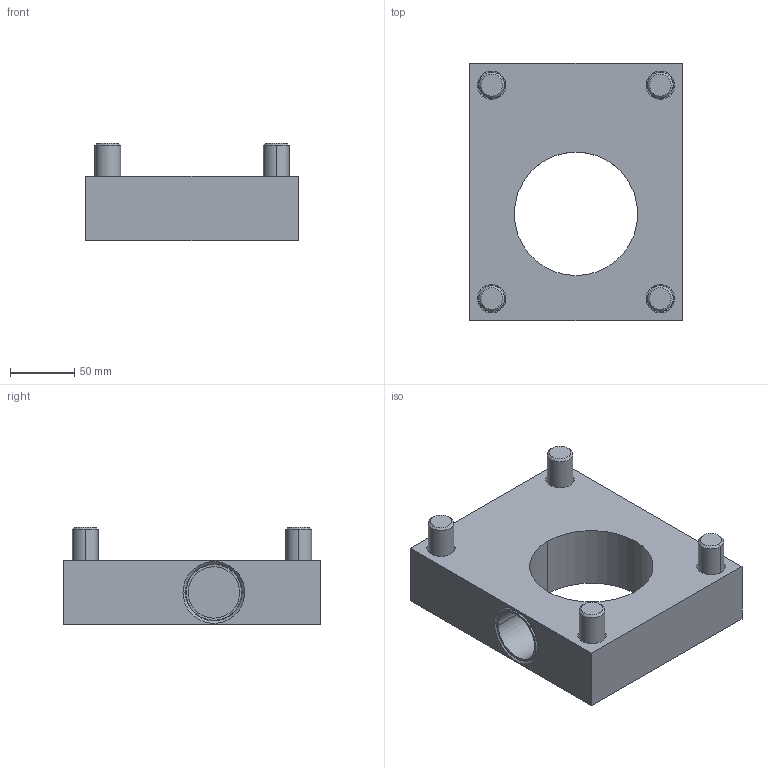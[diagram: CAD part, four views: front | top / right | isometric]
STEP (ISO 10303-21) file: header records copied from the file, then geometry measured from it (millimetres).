
FILE_DESCRIPTION (( 'STEP AP203' ), '1' );
FILE_NAME ('MJ5-KP(B2).STEP', '2024-01-16T10:19:41', ( '' ), ( '' ), 'SwSTEP 2.0', 'SolidWorks 2022', '' );
FILE_SCHEMA (( 'CONFIG_CONTROL_DESIGN' ));
Length unit declared in the file: millimetre
Products named in the file (1): MJ5-KP(B2)
Bounding box: 165 x 200 x 75.6 mm (x, y, z)
Volume: 1326695.3 mm3; surface area: 199289.4 mm2
Topology: 11 solids, 11 shells, 226 faces, 542 edges, 344 vertices
Faces by surface type: plane 88, cylinder 62, cone 44, torus 32
Entity records: 6539 total; most frequent: CARTESIAN_POINT 1225, DIRECTION 1164, ORIENTED_EDGE 1052, EDGE_CURVE 526, AXIS2_PLACEMENT_3D 475, VERTEX_POINT 344, EDGE_LOOP 262, CIRCLE 248
